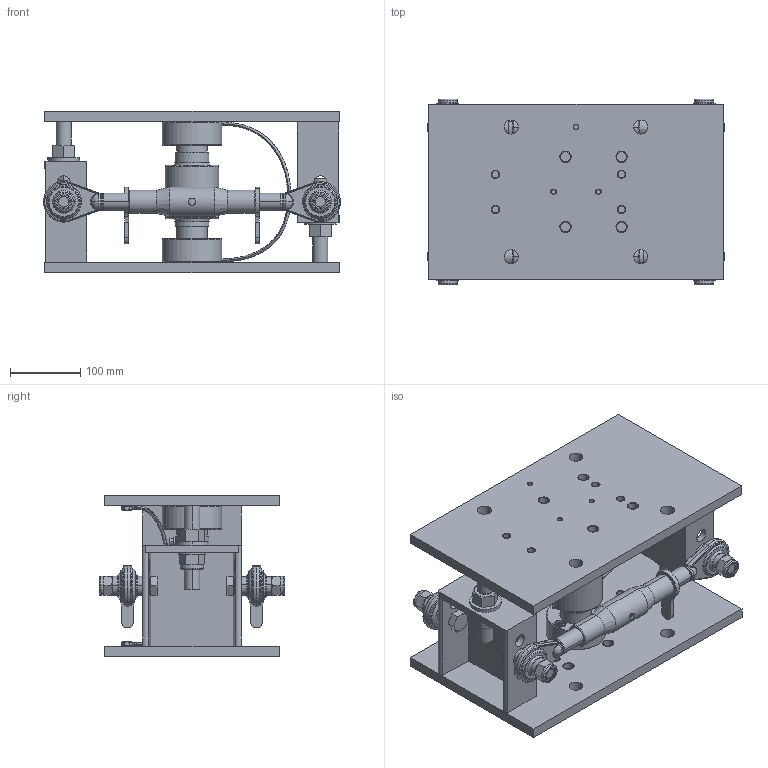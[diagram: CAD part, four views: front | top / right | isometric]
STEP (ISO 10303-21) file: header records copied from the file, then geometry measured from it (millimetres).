
FILE_DESCRIPTION((''),'1');
FILE_NAME('LMLAX_for-column-cell.step','2020-07-27T09:43:34',(''),(''),'','','');
FILE_SCHEMA(('AUTOMOTIVE_DESIGN { 1 0 10303 214 1 1 1 1 }'));
Products named in the file (30): LMLAX for-column-cell; LMLAX part 03; LMLAX nut 01; LMLAX screw 01; LMLAX nut 02; LMLAX nut 03; LMLAX screw 02; LMLAX screw 03; LMLAX part 04; LMLAX part 05; LMLAX part 06; LMLAX part 07; LMLAX screw 05; LMLAX screw 06; LMLAX screw 08; LMLAX screw 09; LMLAX part 08; LMLAX part 09; LMLAX part 11; LMLAX cable 01; LMLAX part 12; LMLAX cable 02; LMLAX base 01; LMLAX screw 10; LMLAX load cell 01
Assembly tree (54 placements, depth 4):
  LMLAX for-column-cell
    LMLAX for-column-cell
    LMLAX part 03  x2
    LMLAX nut 01  x2
    LMLAX screw 01  x2
    LMLAX nut 02  x2
    LMLAX nut 03  x4
    LMLAX part 05
      LMLAX screw 02
        LMLAX screw 03
        LMLAX part 04
      LMLAX part 06
      LMLAX part 07
      LMLAX screw 05
        LMLAX screw 06
        LMLAX part 04
    LMLAX screw 08  x4
    LMLAX screw 09  x2
    LMLAX part 12
      LMLAX part 08
        LMLAX part 09
        LMLAX part 11
        LMLAX cable 01
      LMLAX cable 02
      LMLAX part 08
        LMLAX part 09
        LMLAX part 11
        LMLAX cable 01
    LMLAX base 01  x2
    LMLAX screw 10  x4
    LMLAX load cell 01
    LMLAX part 05
      LMLAX screw 02
        LMLAX screw 03
        LMLAX part 04
      LMLAX part 06
      LMLAX part 07
      LMLAX screw 05
        LMLAX screw 06
        LMLAX part 04
Bounding box: 424 x 265 x 230 mm (x, y, z)
Volume: 5408590 mm3; surface area: 1036913.1 mm2
Topology: 44 solids, 70 shells, 1765 faces, 4299 edges, 2640 vertices
Faces by surface type: cylinder 596, plane 423, cone 398, torus 164, bspline 144, sphere 36, extrusion 4
Entity records: 33075 total; most frequent: CARTESIAN_POINT 13075, DIRECTION 4268, ORIENTED_EDGE 3786, EDGE_CURVE 1919, AXIS2_PLACEMENT_3D 1812, VERTEX_POINT 1204, CIRCLE 982, EDGE_LOOP 901
